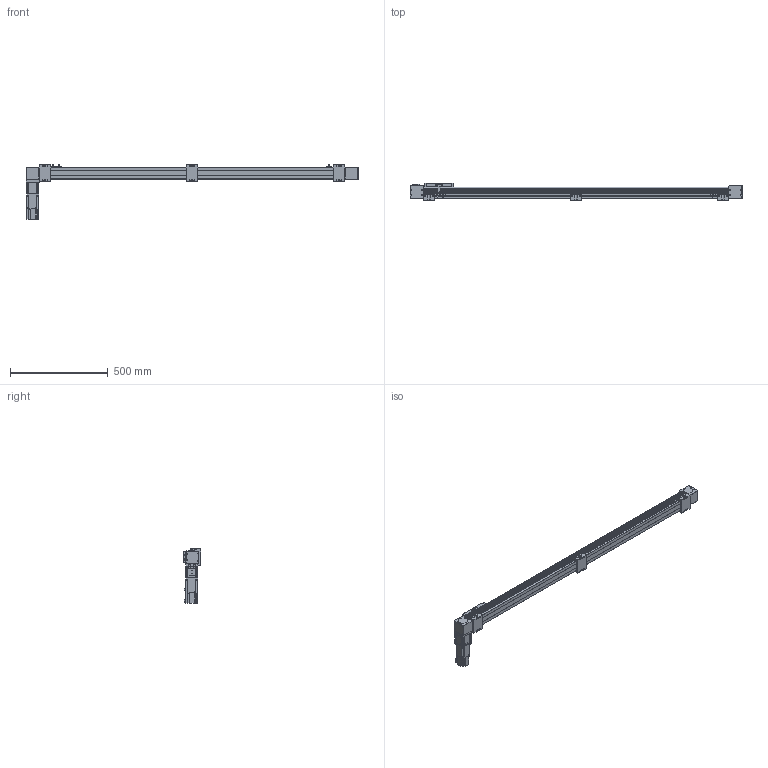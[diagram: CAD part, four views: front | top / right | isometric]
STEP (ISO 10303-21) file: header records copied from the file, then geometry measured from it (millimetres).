
FILE_DESCRIPTION(/* description */ ('STEP AP203'),/* implementation_level */ '2;1');
FILE_NAME(/* name */ 'SK60-P13-S1400-BR-T40-C1-N(0)',/* time_stamp */ '2023-04-06T03:59:56+02:00',/* author */ ('License CC BY-ND 4.0'),/* organization */ ('CADENAS'),/* preprocessor_version */ 'ST-DEVELOPER v19.3',/* originating_system */ 'PARTsolutions',/* authorisation */ ' ');
FILE_SCHEMA (('CONFIG_CONTROL_DESIGN'));
Length unit declared in the file: millimetre
Products named in the file (11): SK60-P13-S1400-BR-T40-C1-N(0); PSC140-sensor; SK60-S450_seat; SK60-S450-BL-C1_slider; SK60_body3; SK60_body6; SK60-BL_body2; T40-p1; SK60_body5; SK60_body4; SK60-S1400-BR-C1_body
Assembly tree (18 placements, depth 2):
  SK60-P13-S1400-BR-T40-C1-N(0)
    PSC140-sensor  x3
    SK60-S450_seat  x3
    SK60-S450-BL-C1_slider
    SK60_body3  x3
    SK60_body6  x2
    SK60-BL_body2  x2
    T40-p1
    SK60_body5
    SK60_body4
    SK60-S1400-BR-C1_body
Bounding box: 1700 x 90 x 279.1 mm (x, y, z)
Volume: 6358411.4 mm3; surface area: 819629.6 mm2
Topology: 18 solids, 22 shells, 878 faces, 2207 edges, 1458 vertices
Faces by surface type: plane 568, cylinder 282, cone 26, torus 2
Full cylindrical faces by diameter (mm): 2.8 x3, 3.3 x4, 4.2 x8, 4.5 x26, 4.6 x3, 4.917 x20, 5 x2, 5.478 x4, 5.5 x23, 6.5 x6, 8 x4, 8.5 x4, 9.988 x4, 10 x12, 13.556 x1, 14 x1, 14.586 x1, 19.692 x1, 38.432 x2, 43 x1, 44 x3, 47 x2, 50 x2
Entity records: 19379 total; most frequent: DIRECTION 3294, CARTESIAN_POINT 3290, ORIENTED_EDGE 3050, EDGE_CURVE 1525, AXIS2_PLACEMENT_3D 1101, LINE 1092, VECTOR 1092, VERTEX_POINT 1077
